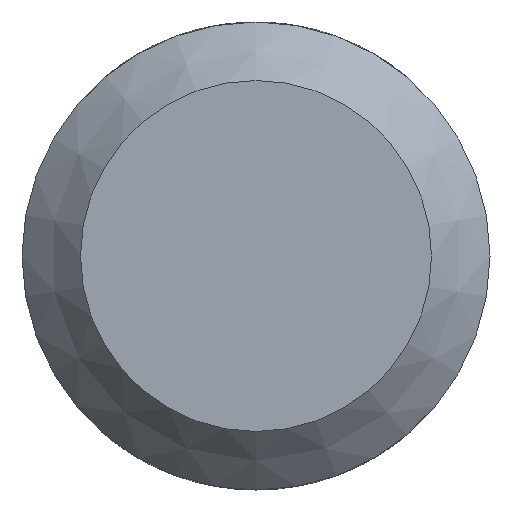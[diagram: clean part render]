
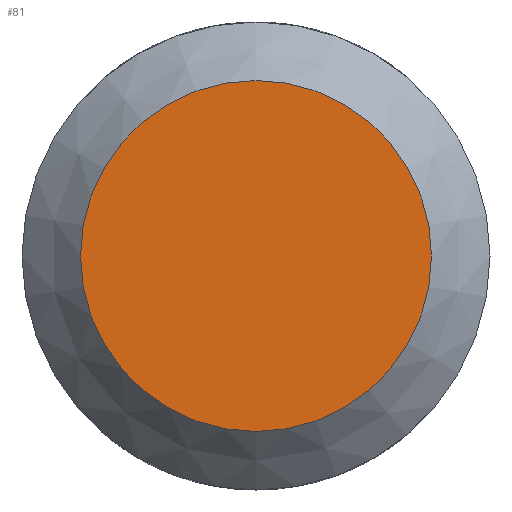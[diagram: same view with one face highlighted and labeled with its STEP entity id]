
A CAD part, front view. The second image highlights one B-rep face of the part: STEP entity #81.
In plain terms, the highlighted planar face has unit normal (0, -1, 0).
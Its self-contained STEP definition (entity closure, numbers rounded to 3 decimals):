
#81 = ADVANCED_FACE( '', ( #107 ), #108, .F. );
#107 = FACE_OUTER_BOUND( '', #143, .T. );
#108 = PLANE( '', #144 );
#143 = EDGE_LOOP( '', ( #199 ) );
#144 = AXIS2_PLACEMENT_3D( '', #200, #201, #202 );
#199 = ORIENTED_EDGE( '', *, *, #256, .T. );
#200 = CARTESIAN_POINT( '', ( 3., 0., 0. ) );
#201 = DIRECTION( '', ( 0., 1., 0. ) );
#202 = DIRECTION( '', ( 0., 0., 1. ) );
#256 = EDGE_CURVE( '', #287, #287, #288, .T. );
#287 = VERTEX_POINT( '', #435 );
#288 = CIRCLE( '', #436, 3. );
#435 = CARTESIAN_POINT( '', ( 0., 0., -3. ) );
#436 = AXIS2_PLACEMENT_3D( '', #463, #464, #465 );
#463 = CARTESIAN_POINT( '', ( 0., 0., 0. ) );
#464 = DIRECTION( '', ( 0., -1., 0. ) );
#465 = DIRECTION( '', ( 0., 0., -1. ) );
